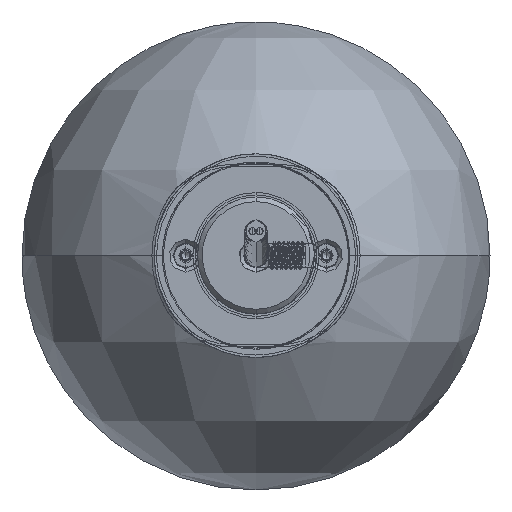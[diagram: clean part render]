
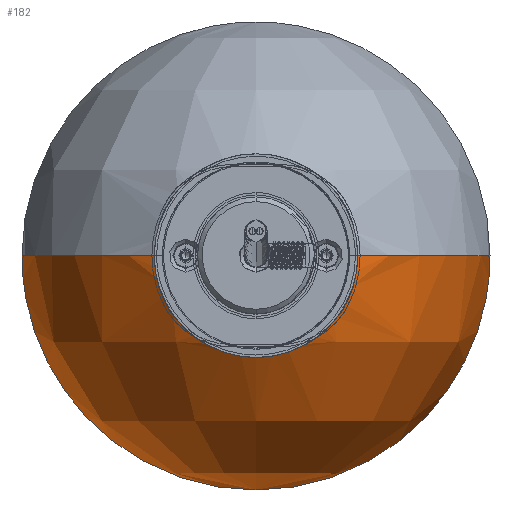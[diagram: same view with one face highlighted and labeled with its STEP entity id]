
A CAD part, top view. The second image highlights one B-rep face of the part: STEP entity #182.
In plain terms, the highlighted free-form (B-spline) face has degree [2, 2] with [5, 5] control points.
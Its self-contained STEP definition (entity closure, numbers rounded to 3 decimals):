
#182=ADVANCED_FACE('',(#382),#2929,.T.);
#382=FACE_OUTER_BOUND('',#598,.T.);
#598=EDGE_LOOP('',(#1224,#1225,#1226,#1227,#1228));
#1224=ORIENTED_EDGE('',*,*,#1880,.T.);
#1225=ORIENTED_EDGE('',*,*,#1865,.F.);
#1226=ORIENTED_EDGE('',*,*,#1870,.T.);
#1227=ORIENTED_EDGE('',*,*,#1867,.F.);
#1228=ORIENTED_EDGE('',*,*,#1871,.F.);
#1865=EDGE_CURVE('',#2677,#2683,#2404,.T.);
#1867=EDGE_CURVE('',#2679,#2676,#2406,.T.);
#1870=EDGE_CURVE('',#2677,#2676,#2409,.T.);
#1871=EDGE_CURVE('',#2680,#2679,#2410,.T.);
#1880=EDGE_CURVE('',#2680,#2683,#2419,.T.);
#2404=(
BOUNDED_CURVE()
B_SPLINE_CURVE(2,(#8067,#8068,#8069),.UNSPECIFIED.,.F.,.F.)
B_SPLINE_CURVE_WITH_KNOTS((3,3),(0.,56.592),.UNSPECIFIED.)
CURVE()
GEOMETRIC_REPRESENTATION_ITEM()
RATIONAL_B_SPLINE_CURVE((1.,0.844,1.))
REPRESENTATION_ITEM('')
);
#2406=(
BOUNDED_CURVE()
B_SPLINE_CURVE(2,(#8073,#8074,#8075),.UNSPECIFIED.,.F.,.F.)
B_SPLINE_CURVE_WITH_KNOTS((3,3),(78.54,135.132),
 .UNSPECIFIED.)
CURVE()
GEOMETRIC_REPRESENTATION_ITEM()
RATIONAL_B_SPLINE_CURVE((1.,0.844,1.))
REPRESENTATION_ITEM('')
);
#2409=(
BOUNDED_CURVE()
B_SPLINE_CURVE(2,(#8084,#8085,#8086,#8087,#8088),.UNSPECIFIED.,.F.,.F.)
B_SPLINE_CURVE_WITH_KNOTS((3,2,3),(-66.759,-33.379,
0.),.UNSPECIFIED.)
CURVE()
GEOMETRIC_REPRESENTATION_ITEM()
RATIONAL_B_SPLINE_CURVE((1.,0.707,1.,0.707,1.))
REPRESENTATION_ITEM('')
);
#2410=(
BOUNDED_CURVE()
B_SPLINE_CURVE(2,(#8089,#8090,#8091),.UNSPECIFIED.,.F.,.F.)
B_SPLINE_CURVE_WITH_KNOTS((3,3),(0.,78.54),.UNSPECIFIED.)
CURVE()
GEOMETRIC_REPRESENTATION_ITEM()
RATIONAL_B_SPLINE_CURVE((1.,0.707,1.))
REPRESENTATION_ITEM('')
);
#2419=(
BOUNDED_CURVE()
B_SPLINE_CURVE(2,(#8118,#8119,#8120),.UNSPECIFIED.,.F.,.F.)
B_SPLINE_CURVE_WITH_KNOTS((3,3),(0.,78.54),.UNSPECIFIED.)
CURVE()
GEOMETRIC_REPRESENTATION_ITEM()
RATIONAL_B_SPLINE_CURVE((1.,0.707,1.))
REPRESENTATION_ITEM('')
);
#2676=VERTEX_POINT('',#8032);
#2677=VERTEX_POINT('',#8033);
#2679=VERTEX_POINT('',#8035);
#2680=VERTEX_POINT('',#8036);
#2683=VERTEX_POINT('',#8039);
#2929=(
BOUNDED_SURFACE()
B_SPLINE_SURFACE(2,2,((#7854,#7855,#7856,#7857,#7858),(#7859,#7860,#7861,
#7862,#7863),(#7864,#7865,#7866,#7867,#7868),(#7869,#7870,#7871,#7872,#7873),
(#7874,#7875,#7876,#7877,#7878)),.UNSPECIFIED.,.F.,.F.,.F.)
B_SPLINE_SURFACE_WITH_KNOTS((3,2,3),(3,2,3),(0.,78.54,157.08),
(0.,78.54,157.08),.UNSPECIFIED.)
GEOMETRIC_REPRESENTATION_ITEM()
RATIONAL_B_SPLINE_SURFACE(((1.,0.707,1.,0.707,1.),
(0.707,0.5,0.707,0.5,0.707),(1.,0.707,
1.,0.707,1.),(0.707,0.5,0.707,0.5,0.707),
(1.,0.707,1.,0.707,1.)))
REPRESENTATION_ITEM('')
SURFACE()
);
#7854=CARTESIAN_POINT('',(0.,-50.,64.235));
#7855=CARTESIAN_POINT('',(-50.,-50.,64.235));
#7856=CARTESIAN_POINT('',(-50.,0.,64.235));
#7857=CARTESIAN_POINT('',(-50.,50.,64.235));
#7858=CARTESIAN_POINT('',(0.,50.,64.235));
#7859=CARTESIAN_POINT('',(0.,-50.,64.235));
#7860=CARTESIAN_POINT('',(-50.,-50.,114.235));
#7861=CARTESIAN_POINT('',(-50.,0.,114.235));
#7862=CARTESIAN_POINT('',(-50.,50.,114.235));
#7863=CARTESIAN_POINT('',(0.,50.,64.235));
#7864=CARTESIAN_POINT('',(0.,-50.,64.235));
#7865=CARTESIAN_POINT('',(0.,-50.,114.235));
#7866=CARTESIAN_POINT('',(0.,0.,114.235));
#7867=CARTESIAN_POINT('',(0.,50.,114.235));
#7868=CARTESIAN_POINT('',(0.,50.,64.235));
#7869=CARTESIAN_POINT('',(0.,-50.,64.235));
#7870=CARTESIAN_POINT('',(50.,-50.,114.235));
#7871=CARTESIAN_POINT('',(50.,0.,114.235));
#7872=CARTESIAN_POINT('',(50.,50.,114.235));
#7873=CARTESIAN_POINT('',(0.,50.,64.235));
#7874=CARTESIAN_POINT('',(0.,-50.,64.235));
#7875=CARTESIAN_POINT('',(50.,-50.,64.235));
#7876=CARTESIAN_POINT('',(50.,0.,64.235));
#7877=CARTESIAN_POINT('',(50.,50.,64.235));
#7878=CARTESIAN_POINT('',(0.,50.,64.235));
#8032=CARTESIAN_POINT('',(-21.25,0.,109.495));
#8033=CARTESIAN_POINT('',(21.25,0.,109.495));
#8035=CARTESIAN_POINT('',(-50.,0.,64.235));
#8036=CARTESIAN_POINT('',(0.,-50.,64.235));
#8039=CARTESIAN_POINT('',(50.,0.,64.235));
#8067=CARTESIAN_POINT('',(21.25,0.,109.495));
#8068=CARTESIAN_POINT('',(50.,0.,95.997));
#8069=CARTESIAN_POINT('',(50.,0.,64.235));
#8073=CARTESIAN_POINT('',(-50.,0.,64.235));
#8074=CARTESIAN_POINT('',(-50.,0.,95.997));
#8075=CARTESIAN_POINT('',(-21.25,0.,109.495));
#8084=CARTESIAN_POINT('',(21.25,0.,109.495));
#8085=CARTESIAN_POINT('',(21.25,-21.25,109.495));
#8086=CARTESIAN_POINT('',(0.,-21.25,109.495));
#8087=CARTESIAN_POINT('',(-21.25,-21.25,109.495));
#8088=CARTESIAN_POINT('',(-21.25,0.,109.495));
#8089=CARTESIAN_POINT('',(0.,-50.,64.235));
#8090=CARTESIAN_POINT('',(-50.,-50.,64.235));
#8091=CARTESIAN_POINT('',(-50.,0.,64.235));
#8118=CARTESIAN_POINT('',(0.,-50.,64.235));
#8119=CARTESIAN_POINT('',(50.,-50.,64.235));
#8120=CARTESIAN_POINT('',(50.,0.,64.235));
